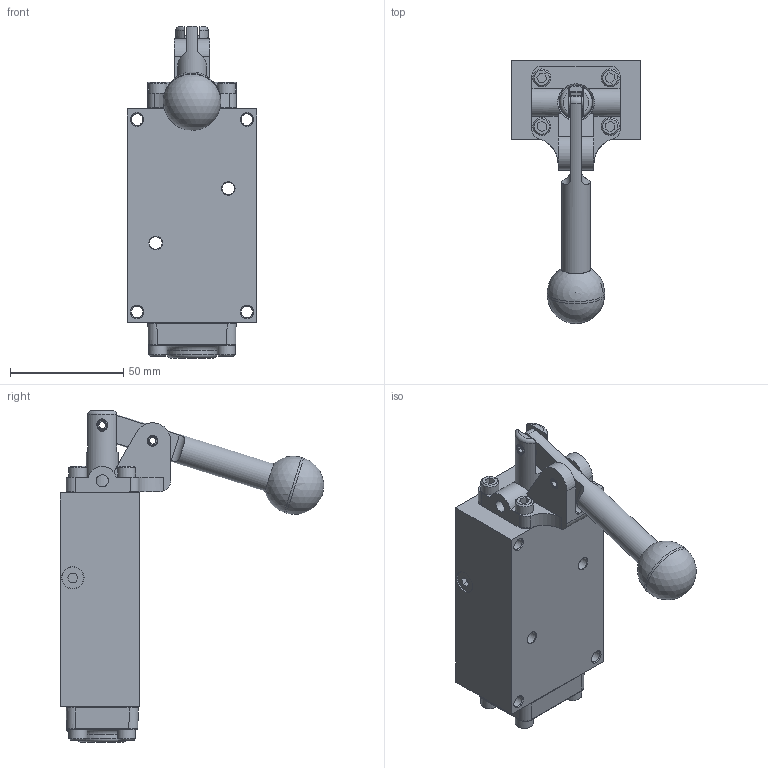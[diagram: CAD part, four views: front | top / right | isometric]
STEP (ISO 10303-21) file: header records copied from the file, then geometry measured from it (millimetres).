
FILE_DESCRIPTION(/* description */ (''),/* implementation_level */ '2;1');
FILE_NAME(/* name */ 'D:\Website Files\stp\Valves\Lever\HE\ZNHE2.stp',/* time_stamp */ '2015-09-03T11:53:59-04:00',/* author */ ('RMcKenna'),/* organization */ (''),/* preprocessor_version */ 'ST-DEVELOPER v15.6',/* originating_system */ 'Autodesk Inventor 2015',/* authorisation */ '');
FILE_SCHEMA (('AUTOMOTIVE_DESIGN { 1 0 10303 214 3 1 1 }'));
Length unit declared in the file: centimetre
Products named in the file (1): Part36
Bounding box: 57.15 x 116.34 x 146.5 mm (x, y, z)
Volume: 207878.6 mm3; surface area: 63484 mm2
Topology: 2 solids, 25 shells, 1028 faces, 2483 edges, 1571 vertices
Faces by surface type: plane 442, cone 247, cylinder 193, torus 93, bspline 50, sphere 3
Full cylindrical faces by diameter (mm): 2.381 x1, 2.388 x2, 3.048 x1, 3.175 x4, 3.683 x8, 4.75 x2, 4.763 x2, 4.826 x8, 4.978 x4, 5.156 x13, 5.41 x1, 5.512 x1, 5.556 x2, 6.731 x1, 7.087 x3, 7.144 x1, 7.798 x1, 7.938 x8, 8.153 x1, 8.731 x2, 9.525 x1, 9.906 x1, 9.922 x1, 11.113 x4, 11.303 x2, 12.7 x1, 14.275 x1, 14.986 x1, 18.618 x1, 18.745 x12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
Entity records: 32119 total; most frequent: CARTESIAN_POINT 8757, DIRECTION 4537, ORIENTED_EDGE 4374, EDGE_CURVE 2186, AXIS2_PLACEMENT_3D 1760, VERTEX_POINT 1485, EDGE_LOOP 1370, FACE_OUTER_BOUND 1026
